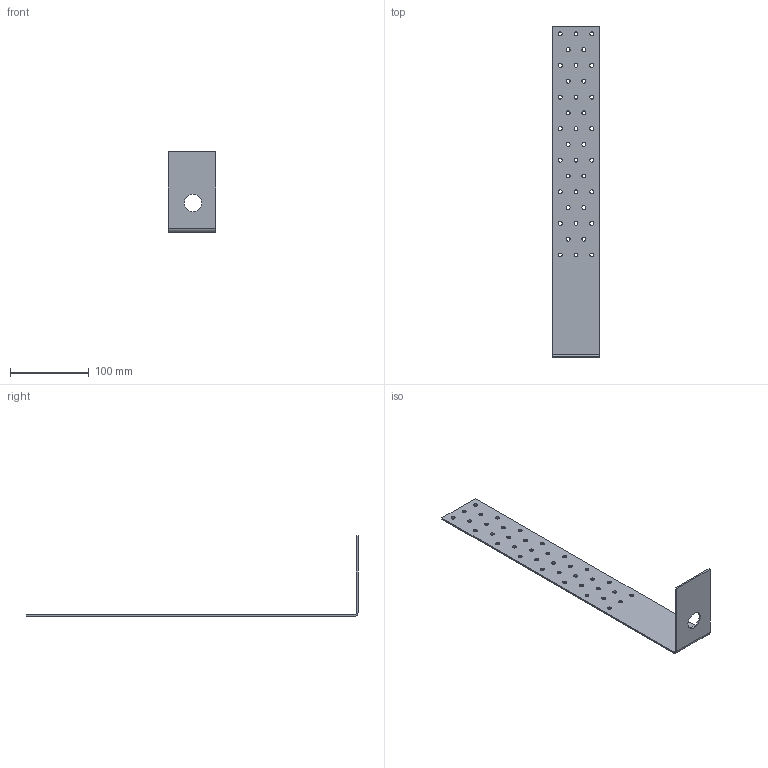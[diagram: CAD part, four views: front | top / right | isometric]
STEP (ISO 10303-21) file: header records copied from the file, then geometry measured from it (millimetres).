
FILE_DESCRIPTION (( 'STEP AP203' ), '1' );
FILE_NAME ('110420.STEP', '2021-03-08T14:14:26', ( '' ), ( '' ), 'SwSTEP 2.0', 'SolidWorks 2013', '' );
FILE_SCHEMA (( 'CONFIG_CONTROL_DESIGN' ));
Length unit declared in the file: millimetre
Products named in the file (1): 110420
Bounding box: 60 x 420.49 x 102.49 mm (x, y, z)
Volume: 60058.3 mm3; surface area: 63707.3 mm2
Topology: 1 solids, 1 shells, 92 faces, 262 edges, 172 vertices
Faces by surface type: cylinder 80, plane 12
Entity records: 3317 total; most frequent: DIRECTION 608, CARTESIAN_POINT 527, ORIENTED_EDGE 524, EDGE_CURVE 262, AXIS2_PLACEMENT_3D 253, VERTEX_POINT 172, EDGE_LOOP 170, CIRCLE 160
